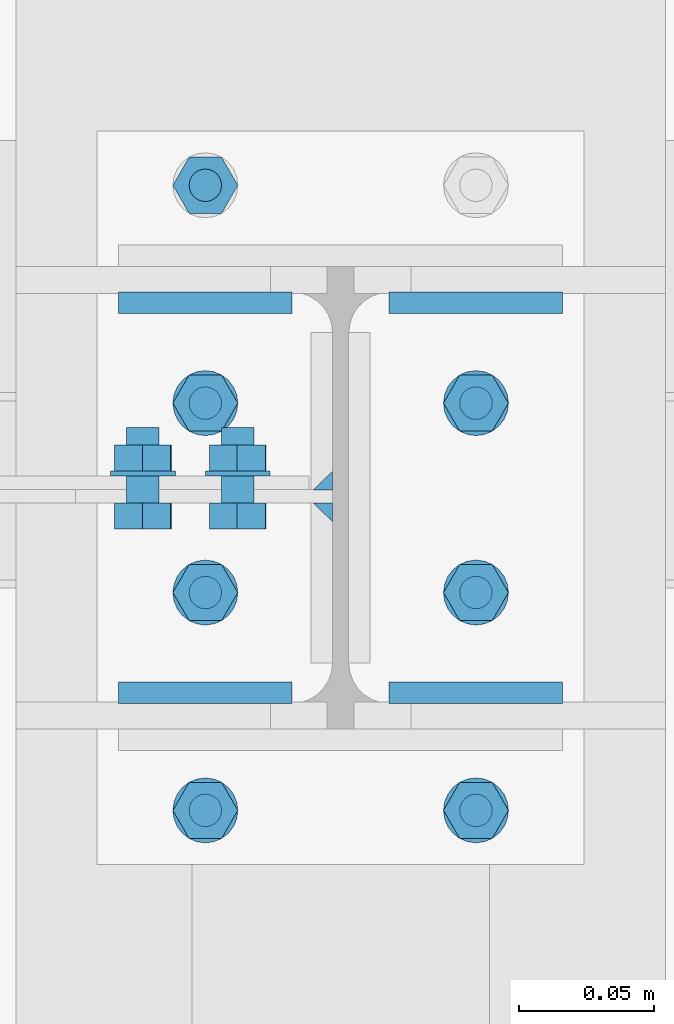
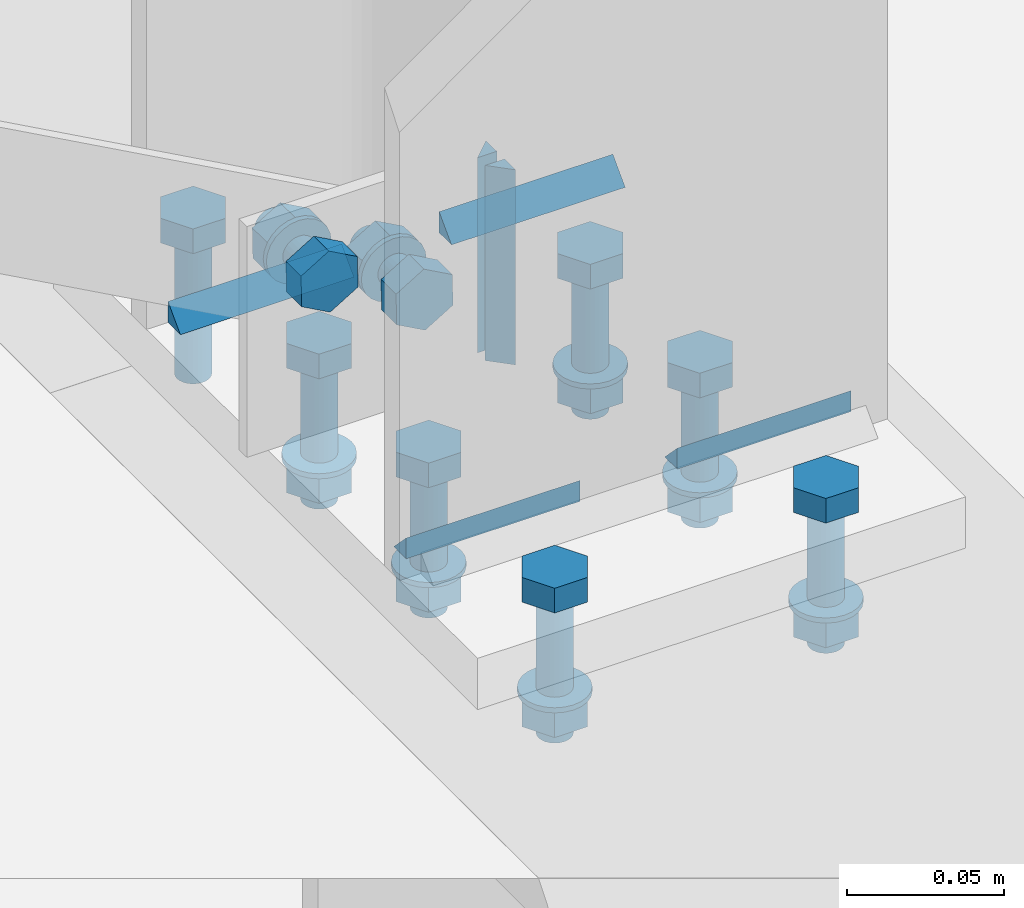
# One storey, part 43 of 66: 34 mechanical fasteners, 10 fasteners.
"""IFC4 building model written with IfcOpenShell, lengths in metres."""

from ifc_helpers import new_model, si_unit, frame, origin_with_axes, place, context, project, spatial, polyline, outline, extrude, type_object, element, save


model = new_model("IFC4")

# Units and contexts
model_context = context("Model", 3, precision=1e-05, world=origin_with_axes())
ifc_project = project(units=[si_unit("LENGTHUNIT", "METRE"), si_unit("AREAUNIT", "SQUARE_METRE"), si_unit("VOLUMEUNIT", "CUBIC_METRE"), si_unit("MASSUNIT", "GRAM", prefix="KILO"), si_unit("TIMEUNIT", "SECOND"), si_unit("PLANEANGLEUNIT", "RADIAN"), si_unit("SOLIDANGLEUNIT", "STERADIAN"), si_unit("THERMODYNAMICTEMPERATUREUNIT", "DEGREE_CELSIUS")], contexts=[model_context])

# Site, building, storey
placement_1 = place(None, origin_with_axes())
site = spatial("IfcSite", under=ifc_project, at=placement_1, Name="Italia", CompositionType="ELEMENT")
building = spatial("IfcBuilding", under=site, at=placement_1, Name="Uffici", CompositionType="ELEMENT")
storey_placement = place(None, frame((0.0, 0.0, 3.299999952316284), z_axis=(0.0, 0.0, 1.0), x_axis=(1.0, 0.0, 0.0)))
storey = spatial("IfcBuildingStorey", under=building, at=storey_placement, Name="Storey 1", CompositionType="ELEMENT", Elevation=3.299999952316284)

# Mechanical fasteners
mechanical_fastener_type_1 = type_object("IfcMechanicalFastenerType", Name="Collegamento 0107_0206", PredefinedType="BOLT")
placement_2 = place(placement_1, origin_with_axes())
mechanical_fastener_1_placement = place(placement_2, origin_with_axes())
element("IfcMechanicalFastener", 1, at=mechanical_fastener_1_placement, inside=storey, type_object=mechanical_fastener_type_1, Name="Collegamento 0107_0206", NominalDiameter=0.0119999, context=model_context, shape_type="SweptSolid", body=[
    extrude(outline(polyline([(0.0, 0.0), (0.0105102, -0.00579119), (0.0207806, 0.000415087), (0.0205407, 0.0124128), (0.0100305, 0.018204), (-0.000239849, 0.0119975), (0.0, 0.0)])), frame((3.1567, 4.8125, 3.36033), z_axis=(0.0, -1.0, 0.0), x_axis=(1.0, 0.0, 0.0)), (0.0, 0.0, 1.0), 0.00959969),
])
mechanical_fastener_type_2 = type_object("IfcMechanicalFastenerType", Name="Collegamento 0107_0206", PredefinedType="BOLT")
mechanical_fastener_2_placement = place(placement_2, origin_with_axes())
element("IfcMechanicalFastener", 2, at=mechanical_fastener_2_placement, inside=storey, type_object=mechanical_fastener_type_2, Name="Collegamento 0107_0206", NominalDiameter=0.012, context=model_context, shape_type="SweptSolid", body=[
    extrude(outline(polyline([(0.0, 0.0), (-0.000204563, -0.00155282), (-0.000803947, -0.00300002), (-0.00175738, -0.00424266), (-0.00300002, -0.00519609), (-0.00444722, -0.00579548), (-0.00600004, -0.00600004), (-0.00755286, -0.00579548), (-0.00900006, -0.00519609), (-0.0102427, -0.00424266), (-0.0111961, -0.00300002), (-0.0117955, -0.00155282), (-0.0120001, 0.0), (-0.0117955, 0.00155282), (-0.0111961, 0.00300002), (-0.0102427, 0.00424266), (-0.00900006, 0.00519609), (-0.00755286, 0.00579548), (-0.00600004, 0.00600004), (-0.00444722, 0.00579548), (-0.00300002, 0.00519609), (-0.00175738, 0.00424266), (-0.000803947, 0.00300002), (-0.000204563, 0.00155282), (0.0, 0.0)])), frame((3.17297, 4.8405, 3.36654), z_axis=(0.0, -1.0, 0.0), x_axis=(1.0, 0.0, 0.0)), (0.0, 0.0, 1.0), 0.0280004),
])
mechanical_fastener_type_3 = type_object("IfcMechanicalFastenerType", Name="Collegamento 0107_0206", PredefinedType="BOLT")
mechanical_fastener_3_placement = place(placement_2, origin_with_axes())
element("IfcMechanicalFastener", 3, at=mechanical_fastener_3_placement, inside=storey, type_object=mechanical_fastener_type_3, Name="Collegamento 0107_0206", NominalDiameter=0.0119999, context=model_context, shape_type="SweptSolid", body=[
    extrude(outline(polyline([(0.0, 0.0), (0.0105102, -0.00579119), (0.0207806, 0.000415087), (0.0205407, 0.0124128), (0.0100305, 0.018204), (-0.000239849, 0.0119975), (0.0, 0.0)])), frame((3.1567, 4.8341, 3.36033), z_axis=(0.0, -1.0, 0.0), x_axis=(1.0, 0.0, 0.0)), (0.0, 0.0, 1.0), 0.00960016),
])
mechanical_fastener_type_4 = type_object("IfcMechanicalFastenerType", Name="Collegamento 0107_0206", PredefinedType="BOLT")
mechanical_fastener_4_placement = place(placement_2, origin_with_axes())
element("IfcMechanicalFastener", 4, at=mechanical_fastener_4_placement, inside=storey, type_object=mechanical_fastener_type_4, Name="Collegamento 0107_0206", NominalDiameter=0.024, context=model_context, shape_type="SweptSolid", body=[
    extrude(outline(polyline([(0.0, 0.0), (-0.000408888, -0.00310588), (-0.00160789, -0.00600004), (-0.00351477, -0.00848532), (-0.00600004, -0.0103922), (-0.00889421, -0.0115912), (-0.0120001, -0.0120001), (-0.015106, -0.0115912), (-0.0180001, -0.0103922), (-0.0204854, -0.00848532), (-0.0223923, -0.00600004), (-0.0235913, -0.00310588), (-0.0240002, 0.0), (-0.0235913, 0.00310588), (-0.0223923, 0.00600004), (-0.0204854, 0.00848532), (-0.0180001, 0.0103922), (-0.015106, 0.0115912), (-0.0120001, 0.0120001), (-0.00889421, 0.0115912), (-0.00600004, 0.0103922), (-0.00351477, 0.00848532), (-0.00160789, 0.00600004), (-0.000408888, 0.00310588), (0.0, 0.0)])), frame((3.17897, 4.8245, 3.36654), z_axis=(0.0, -1.0, 0.0), x_axis=(1.0, 0.0, 0.0)), (0.0, 0.0, 1.0), 0.00199986),
])
mechanical_fastener_type_5 = type_object("IfcMechanicalFastenerType", Name="Collegamento 0107_0206", PredefinedType="BOLT")
mechanical_fastener_5_placement = place(placement_2, origin_with_axes())
element("IfcMechanicalFastener", 5, at=mechanical_fastener_5_placement, inside=storey, type_object=mechanical_fastener_type_5, Name="Collegamento 0107_0206", NominalDiameter=0.0119999, context=model_context, shape_type="SweptSolid", body=[
    extrude(outline(polyline([(0.0, 0.0), (0.01051, -0.00579119), (0.0207803, 0.000415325), (0.0205407, 0.0124128), (0.0100305, 0.018204), (-0.000239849, 0.0119975), (0.0, 0.0)])), frame((3.12166, 4.8125, 3.37964), z_axis=(0.0, -1.0, 0.0), x_axis=(1.0, 0.0, 0.0)), (0.0, 0.0, 1.0), 0.00959969),
])
mechanical_fastener_type_6 = type_object("IfcMechanicalFastenerType", Name="Collegamento 0107_0206", PredefinedType="BOLT")
mechanical_fastener_6_placement = place(placement_2, origin_with_axes())
element("IfcMechanicalFastener", 6, at=mechanical_fastener_6_placement, inside=storey, type_object=mechanical_fastener_type_6, Name="Collegamento 0107_0206", NominalDiameter=0.012, context=model_context, shape_type="SweptSolid", body=[
    extrude(outline(polyline([(0.0, 0.0), (-0.000204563, -0.00155282), (-0.000803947, -0.00300002), (-0.00175738, -0.00424266), (-0.00300002, -0.00519609), (-0.00444722, -0.00579548), (-0.00600004, -0.00600004), (-0.00755286, -0.00579548), (-0.00900006, -0.00519609), (-0.0102427, -0.00424266), (-0.0111961, -0.00300002), (-0.0117955, -0.00155282), (-0.0120001, 0.0), (-0.0117955, 0.00155282), (-0.0111961, 0.00300002), (-0.0102427, 0.00424266), (-0.00900006, 0.00519609), (-0.00755286, 0.00579548), (-0.00600004, 0.00600004), (-0.00444722, 0.00579548), (-0.00300002, 0.00519609), (-0.00175738, 0.00424266), (-0.000803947, 0.00300002), (-0.000204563, 0.00155282), (0.0, 0.0)])), frame((3.13793, 4.8405, 3.38584), z_axis=(0.0, -1.0, 0.0), x_axis=(1.0, 0.0, 0.0)), (0.0, 0.0, 1.0), 0.0280004),
])
mechanical_fastener_type_7 = type_object("IfcMechanicalFastenerType", Name="Collegamento 0107_0206", PredefinedType="BOLT")
mechanical_fastener_7_placement = place(placement_2, origin_with_axes())
element("IfcMechanicalFastener", 7, at=mechanical_fastener_7_placement, inside=storey, type_object=mechanical_fastener_type_7, Name="Collegamento 0107_0206", NominalDiameter=0.0119999, context=model_context, shape_type="SweptSolid", body=[
    extrude(outline(polyline([(0.0, 0.0), (0.01051, -0.00579119), (0.0207803, 0.000415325), (0.0205407, 0.0124128), (0.0100305, 0.018204), (-0.000239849, 0.0119975), (0.0, 0.0)])), frame((3.12166, 4.8341, 3.37964), z_axis=(0.0, -1.0, 0.0), x_axis=(1.0, 0.0, 0.0)), (0.0, 0.0, 1.0), 0.00960016),
])
mechanical_fastener_type_8 = type_object("IfcMechanicalFastenerType", Name="Collegamento 0107_0206", PredefinedType="BOLT")
mechanical_fastener_8_placement = place(placement_2, origin_with_axes())
element("IfcMechanicalFastener", 8, at=mechanical_fastener_8_placement, inside=storey, type_object=mechanical_fastener_type_8, Name="Collegamento 0107_0206", NominalDiameter=0.024, context=model_context, shape_type="SweptSolid", body=[
    extrude(outline(polyline([(0.0, 0.0), (-0.000408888, -0.00310588), (-0.00160789, -0.00600004), (-0.00351477, -0.00848532), (-0.00600004, -0.0103922), (-0.00889421, -0.0115912), (-0.0120001, -0.0120001), (-0.015106, -0.0115912), (-0.0180001, -0.0103922), (-0.0204854, -0.00848532), (-0.0223923, -0.00600004), (-0.0235913, -0.00310588), (-0.0240002, 0.0), (-0.0235913, 0.00310588), (-0.0223923, 0.00600004), (-0.0204854, 0.00848532), (-0.0180001, 0.0103922), (-0.015106, 0.0115912), (-0.0120001, 0.0120001), (-0.00889421, 0.0115912), (-0.00600004, 0.0103922), (-0.00351477, 0.00848532), (-0.00160789, 0.00600004), (-0.000408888, 0.00310588), (0.0, 0.0)])), frame((3.14393, 4.8245, 3.38584), z_axis=(0.0, -1.0, 0.0), x_axis=(1.0, 0.0, 0.0)), (0.0, 0.0, 1.0), 0.00199986),
])

# Fasteners
fastener_type_1 = type_object("IfcFastenerType", Name="Collegamento 0107_0206", PredefinedType="WELD")
fastener_1_placement = place(placement_2, origin_with_axes())
element("IfcFastener", 9, at=fastener_1_placement, inside=storey, type_object=fastener_type_1, Name="Collegamento 0107_0206", context=model_context, shape_type="SweptSolid", body=[
    extrude(outline(polyline([(0.0, 0.0), (-0.00695801, -0.0071733), (-0.00695801, 0.0), (0.0, 0.0)])), frame((3.20205, 4.82441, 3.40328), z_axis=(0.0, 0.0, -1.0), x_axis=(0.0, 1.0, 0.0)), (0.0, 0.0, 1.0), 0.0760994),
])
fastener_type_2 = type_object("IfcFastenerType", Name="Collegamento 0107_0206", PredefinedType="WELD")
fastener_2_placement = place(placement_2, origin_with_axes())
element("IfcFastener", 10, at=fastener_2_placement, inside=storey, type_object=fastener_type_2, Name="Collegamento 0107_0206", context=model_context, shape_type="SweptSolid", body=[
    extrude(outline(polyline([(0.0, 0.0), (0.00695801, 0.00717354), (0.00695801, 0.0), (0.0, 0.0)])), frame((3.20205, 4.80559, 3.32718), z_axis=(0.0, 0.0, 1.0), x_axis=(0.0, 1.0, 0.0)), (0.0, 0.0, 1.0), 0.0760999),
])
fastener_type_3 = type_object("IfcFastenerType", Name="Collegamento 0107_0207", PredefinedType="WELD")
fastener_3_placement = place(placement_2, origin_with_axes())
element("IfcFastener", 11, at=fastener_3_placement, inside=storey, type_object=fastener_type_3, Name="Collegamento 0107_0207", context=model_context, shape_type="SweptSolid", body=[
    extrude(outline(polyline([(0.0, 0.0), (0.00792837, 0.00817347), (0.00792837, 0.0), (0.0, 0.0)])), frame((3.22295, 4.88262, 3.31995), z_axis=(1.0, 0.0, 0.0), x_axis=(0.0, 1.0, 0.0)), (0.0, 0.0, 1.0), 0.0640998),
])
fastener_type_4 = type_object("IfcFastenerType", Name="Collegamento 0107_0207", PredefinedType="WELD")
fastener_4_placement = place(placement_2, origin_with_axes())
element("IfcFastener", 12, at=fastener_4_placement, inside=storey, type_object=fastener_type_4, Name="Collegamento 0107_0207", context=model_context, shape_type="SweptSolid", body=[
    extrude(outline(polyline([(0.0, 0.0), (0.00792837, 0.00817347), (0.00792837, 0.0), (0.0, 0.0)])), frame((3.28705, 4.74638, 3.31995), z_axis=(-1.0, 0.0, 0.0), x_axis=(0.0, -1.0, 0.0)), (0.0, 0.0, 1.0), 0.0640998),
])
fastener_type_5 = type_object("IfcFastenerType", Name="Collegamento 0107_0207", PredefinedType="WELD")
fastener_5_placement = place(placement_2, origin_with_axes())
element("IfcFastener", 13, at=fastener_5_placement, inside=storey, type_object=fastener_type_5, Name="Collegamento 0107_0207", context=model_context, shape_type="SweptSolid", body=[
    extrude(outline(polyline([(0.0, 0.0), (0.00792837, 0.00817347), (0.00792837, 0.0), (0.0, 0.0)])), frame((3.18705, 4.74638, 3.31995), z_axis=(-1.0, 0.0, 0.0), x_axis=(0.0, -1.0, 0.0)), (0.0, 0.0, 1.0), 0.0640998),
])
fastener_type_6 = type_object("IfcFastenerType", Name="Collegamento 0107_0207", PredefinedType="WELD")
fastener_6_placement = place(placement_2, origin_with_axes())
element("IfcFastener", 14, at=fastener_6_placement, inside=storey, type_object=fastener_type_6, Name="Collegamento 0107_0207", context=model_context, shape_type="SweptSolid", body=[
    extrude(outline(polyline([(0.0, 0.0), (0.00792837, 0.00817347), (0.00792837, 0.0), (0.0, 0.0)])), frame((3.12295, 4.88262, 3.31995), z_axis=(1.0, 0.0, 0.0), x_axis=(0.0, 1.0, 0.0)), (0.0, 0.0, 1.0), 0.0640998),
])
fastener_type_7 = type_object("IfcFastenerType", Name="Collegamento 0107_0207", PredefinedType="WELD")
fastener_7_placement = place(placement_2, origin_with_axes())
element("IfcFastener", 15, at=fastener_7_placement, inside=storey, type_object=fastener_type_7, Name="Collegamento 0107_0207", context=model_context, shape_type="SweptSolid", body=[
    extrude(outline(polyline([(0.0, 0.0), (0.00792837, 0.00817347), (0.00792837, 0.0), (0.0, 0.0)])), frame((3.22295, 4.88262, 3.31995), z_axis=(1.0, 0.0, 0.0), x_axis=(0.0, 1.0, 0.0)), (0.0, 0.0, 1.0), 0.0640998),
])
fastener_type_8 = type_object("IfcFastenerType", Name="Collegamento 0107_0207", PredefinedType="WELD")
fastener_8_placement = place(placement_2, origin_with_axes())
element("IfcFastener", 16, at=fastener_8_placement, inside=storey, type_object=fastener_type_8, Name="Collegamento 0107_0207", context=model_context, shape_type="SweptSolid", body=[
    extrude(outline(polyline([(0.0, 0.0), (0.00792837, 0.00817347), (0.00792837, 0.0), (0.0, 0.0)])), frame((3.28705, 4.74638, 3.31995), z_axis=(-1.0, 0.0, 0.0), x_axis=(0.0, -1.0, 0.0)), (0.0, 0.0, 1.0), 0.0640998),
])
fastener_type_9 = type_object("IfcFastenerType", Name="Collegamento 0107_0207", PredefinedType="WELD")
fastener_9_placement = place(placement_2, origin_with_axes())
element("IfcFastener", 17, at=fastener_9_placement, inside=storey, type_object=fastener_type_9, Name="Collegamento 0107_0207", context=model_context, shape_type="SweptSolid", body=[
    extrude(outline(polyline([(0.0, 0.0), (0.00792837, 0.00817347), (0.00792837, 0.0), (0.0, 0.0)])), frame((3.18705, 4.74638, 3.31995), z_axis=(-1.0, 0.0, 0.0), x_axis=(0.0, -1.0, 0.0)), (0.0, 0.0, 1.0), 0.0640998),
])
fastener_type_10 = type_object("IfcFastenerType", Name="Collegamento 0107_0207", PredefinedType="WELD")
fastener_10_placement = place(placement_2, origin_with_axes())
element("IfcFastener", 18, at=fastener_10_placement, inside=storey, type_object=fastener_type_10, Name="Collegamento 0107_0207", context=model_context, shape_type="SweptSolid", body=[
    extrude(outline(polyline([(0.0, 0.0), (0.00792837, 0.00817347), (0.00792837, 0.0), (0.0, 0.0)])), frame((3.12295, 4.88262, 3.31995), z_axis=(1.0, 0.0, 0.0), x_axis=(0.0, 1.0, 0.0)), (0.0, 0.0, 1.0), 0.0640998),
])

# Mechanical fasteners
mechanical_fastener_type_9 = type_object("IfcMechanicalFastenerType", Name="Collegamento 0107_0207", PredefinedType="BOLT")
mechanical_fastener_9_placement = place(placement_2, origin_with_axes())
element("IfcMechanicalFastener", 19, at=mechanical_fastener_9_placement, inside=storey, type_object=mechanical_fastener_type_9, Name="Collegamento 0107_0207", NominalDiameter=0.0119998, context=model_context, shape_type="SweptSolid", body=[
    extrude(outline(polyline([(0.0, 0.0), (0.0, 0.0120001), (0.0103922, 0.0180001), (0.0207844, 0.0120001), (0.0207844, 0.0), (0.0103922, -0.0059998), (0.0, 0.0)])), frame((3.161, 4.91961, 3.32), z_axis=(0.0, 0.0, 1.0), x_axis=(0.0, 1.0, 0.0)), (0.0, 0.0, 1.0), 0.00959992),
])
mechanical_fastener_type_10 = type_object("IfcMechanicalFastenerType", Name="Collegamento 0107_0207", PredefinedType="BOLT")
mechanical_fastener_10_placement = place(placement_2, origin_with_axes())
element("IfcMechanicalFastener", 20, at=mechanical_fastener_10_placement, inside=storey, type_object=mechanical_fastener_type_10, Name="Collegamento 0107_0207", NominalDiameter=0.012, context=model_context, shape_type="SweptSolid", body=[
    extrude(outline(polyline([(0.0, 0.0), (-0.000204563, -0.00155282), (-0.000803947, -0.00300002), (-0.00175762, -0.00424266), (-0.00300026, -0.00519609), (-0.00444698, -0.00579548), (-0.00600004, -0.00600004), (-0.0075531, -0.00579548), (-0.00899982, -0.00519609), (-0.0102425, -0.00424266), (-0.0111961, -0.00300002), (-0.0117955, -0.00155282), (-0.0120001, 0.0), (-0.0117955, 0.00155282), (-0.0111961, 0.00300002), (-0.0102425, 0.00424266), (-0.00899982, 0.00519609), (-0.0075531, 0.00579548), (-0.00600004, 0.00600004), (-0.00444698, 0.00579548), (-0.00300026, 0.00519609), (-0.00175762, 0.00424266), (-0.000803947, 0.00300002), (-0.000204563, 0.00155282), (0.0, 0.0)])), frame((3.155, 4.936, 3.265), z_axis=(0.0, 0.0, 1.0), x_axis=(0.0, 1.0, 0.0)), (0.0, 0.0, 1.0), 0.0550001),
])
mechanical_fastener_type_11 = type_object("IfcMechanicalFastenerType", Name="Collegamento 0107_0207", PredefinedType="BOLT")
mechanical_fastener_11_placement = place(placement_2, origin_with_axes())
element("IfcMechanicalFastener", 21, at=mechanical_fastener_11_placement, inside=storey, type_object=mechanical_fastener_type_11, Name="Collegamento 0107_0207", NominalDiameter=0.0119998, context=model_context, shape_type="SweptSolid", body=[
    extrude(outline(polyline([(0.0, 0.0), (0.0, 0.0120001), (0.0103927, 0.0180001), (0.0207849, 0.0120001), (0.0207849, 0.0), (0.0103927, -0.0059998), (0.0, 0.0)])), frame((3.161, 4.76911, 3.32), z_axis=(0.0, 0.0, 1.0), x_axis=(0.0, 1.0, 0.0)), (0.0, 0.0, 1.0), 0.00959992),
])
mechanical_fastener_type_12 = type_object("IfcMechanicalFastenerType", Name="Collegamento 0107_0207", PredefinedType="BOLT")
mechanical_fastener_12_placement = place(placement_2, origin_with_axes())
element("IfcMechanicalFastener", 22, at=mechanical_fastener_12_placement, inside=storey, type_object=mechanical_fastener_type_12, Name="Collegamento 0107_0207", NominalDiameter=0.012, context=model_context, shape_type="SweptSolid", body=[
    extrude(outline(polyline([(0.0, 0.0), (-0.000204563, -0.00155282), (-0.000803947, -0.00300002), (-0.00175762, -0.00424266), (-0.00300026, -0.00519609), (-0.00444698, -0.00579548), (-0.00600004, -0.00600004), (-0.0075531, -0.00579548), (-0.00899982, -0.00519609), (-0.0102425, -0.00424266), (-0.0111961, -0.00300002), (-0.0117955, -0.00155282), (-0.0120001, 0.0), (-0.0117955, 0.00155282), (-0.0111961, 0.00300002), (-0.0102425, 0.00424266), (-0.00899982, 0.00519609), (-0.0075531, 0.00579548), (-0.00600004, 0.00600004), (-0.00444698, 0.00579548), (-0.00300026, 0.00519609), (-0.00175762, 0.00424266), (-0.000803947, 0.00300002), (-0.000204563, 0.00155282), (0.0, 0.0)])), frame((3.155, 4.7855, 3.265), z_axis=(0.0, 0.0, 1.0), x_axis=(0.0, 1.0, 0.0)), (0.0, 0.0, 1.0), 0.0550001),
])
mechanical_fastener_type_13 = type_object("IfcMechanicalFastenerType", Name="Collegamento 0107_0207", PredefinedType="BOLT")
mechanical_fastener_13_placement = place(placement_2, origin_with_axes())
element("IfcMechanicalFastener", 23, at=mechanical_fastener_13_placement, inside=storey, type_object=mechanical_fastener_type_13, Name="Collegamento 0107_0207", NominalDiameter=0.0119998, context=model_context, shape_type="SweptSolid", body=[
    extrude(outline(polyline([(0.0, 0.0), (0.0, 0.0120001), (0.0103927, 0.0180001), (0.0207849, 0.0120001), (0.0207849, 0.0), (0.0103927, -0.0059998), (0.0, 0.0)])), frame((3.161, 4.76911, 3.2714), z_axis=(0.0, 0.0, 1.0), x_axis=(0.0, 1.0, 0.0)), (0.0, 0.0, 1.0), 0.00959992),
])
mechanical_fastener_type_14 = type_object("IfcMechanicalFastenerType", Name="Collegamento 0107_0207", PredefinedType="BOLT")
mechanical_fastener_14_placement = place(placement_2, origin_with_axes())
element("IfcMechanicalFastener", 24, at=mechanical_fastener_14_placement, inside=storey, type_object=mechanical_fastener_type_14, Name="Collegamento 0107_0207", NominalDiameter=0.024, context=model_context, shape_type="SweptSolid", body=[
    extrude(outline(polyline([(0.0, 0.0), (-0.000409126, -0.00310588), (-0.00160789, -0.00600004), (-0.00351477, -0.00848532), (-0.00600004, -0.0103922), (-0.00889444, -0.0115912), (-0.0120001, -0.0120001), (-0.0151057, -0.0115912), (-0.0180001, -0.0103922), (-0.0204854, -0.00848532), (-0.0223923, -0.00600004), (-0.023591, -0.00310588), (-0.0240002, 0.0), (-0.023591, 0.00310588), (-0.0223923, 0.00600004), (-0.0204854, 0.00848532), (-0.0180001, 0.0103922), (-0.0151057, 0.0115912), (-0.0120001, 0.0120001), (-0.00889444, 0.0115912), (-0.00600004, 0.0103922), (-0.00351477, 0.00848532), (-0.00160789, 0.00600004), (-0.000409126, 0.00310588), (0.0, 0.0)])), frame((3.155, 4.7915, 3.281), z_axis=(0.0, 0.0, 1.0), x_axis=(0.0, 1.0, 0.0)), (0.0, 0.0, 1.0), 0.00200009),
])
mechanical_fastener_type_15 = type_object("IfcMechanicalFastenerType", Name="Collegamento 0107_0207", PredefinedType="BOLT")
mechanical_fastener_15_placement = place(placement_2, origin_with_axes())
element("IfcMechanicalFastener", 25, at=mechanical_fastener_15_placement, inside=storey, type_object=mechanical_fastener_type_15, Name="Collegamento 0107_0207", NominalDiameter=0.0119998, context=model_context, shape_type="SweptSolid", body=[
    extrude(outline(polyline([(0.0, 0.0), (0.0, 0.0120001), (0.0103927, 0.0179999), (0.0207849, 0.0120001), (0.0207849, 0.0), (0.0103927, -0.00600004), (0.0, 0.0)])), frame((3.261, 4.76911, 3.32), z_axis=(0.0, 0.0, 1.0), x_axis=(0.0, 1.0, 0.0)), (0.0, 0.0, 1.0), 0.00959992),
])
mechanical_fastener_type_16 = type_object("IfcMechanicalFastenerType", Name="Collegamento 0107_0207", PredefinedType="BOLT")
mechanical_fastener_16_placement = place(placement_2, origin_with_axes())
element("IfcMechanicalFastener", 26, at=mechanical_fastener_16_placement, inside=storey, type_object=mechanical_fastener_type_16, Name="Collegamento 0107_0207", NominalDiameter=0.012, context=model_context, shape_type="SweptSolid", body=[
    extrude(outline(polyline([(0.0, 0.0), (-0.000204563, -0.00155282), (-0.000803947, -0.00300002), (-0.00175762, -0.00424266), (-0.00300026, -0.00519609), (-0.00444698, -0.00579548), (-0.00600004, -0.00600004), (-0.0075531, -0.00579548), (-0.00899982, -0.00519609), (-0.0102425, -0.00424266), (-0.0111961, -0.00300002), (-0.0117955, -0.00155282), (-0.0120001, 0.0), (-0.0117955, 0.00155282), (-0.0111961, 0.00300002), (-0.0102425, 0.00424266), (-0.00899982, 0.00519609), (-0.0075531, 0.00579548), (-0.00600004, 0.00600004), (-0.00444698, 0.00579548), (-0.00300026, 0.00519609), (-0.00175762, 0.00424266), (-0.000803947, 0.00300002), (-0.000204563, 0.00155282), (0.0, 0.0)])), frame((3.255, 4.7855, 3.265), z_axis=(0.0, 0.0, 1.0), x_axis=(0.0, 1.0, 0.0)), (0.0, 0.0, 1.0), 0.0550001),
])
mechanical_fastener_type_17 = type_object("IfcMechanicalFastenerType", Name="Collegamento 0107_0207", PredefinedType="BOLT")
mechanical_fastener_17_placement = place(placement_2, origin_with_axes())
element("IfcMechanicalFastener", 27, at=mechanical_fastener_17_placement, inside=storey, type_object=mechanical_fastener_type_17, Name="Collegamento 0107_0207", NominalDiameter=0.0119998, context=model_context, shape_type="SweptSolid", body=[
    extrude(outline(polyline([(0.0, 0.0), (0.0, 0.0120001), (0.0103927, 0.0179999), (0.0207849, 0.0120001), (0.0207849, 0.0), (0.0103927, -0.00600004), (0.0, 0.0)])), frame((3.261, 4.76911, 3.2714), z_axis=(0.0, 0.0, 1.0), x_axis=(0.0, 1.0, 0.0)), (0.0, 0.0, 1.0), 0.00959992),
])
mechanical_fastener_type_18 = type_object("IfcMechanicalFastenerType", Name="Collegamento 0107_0207", PredefinedType="BOLT")
mechanical_fastener_18_placement = place(placement_2, origin_with_axes())
element("IfcMechanicalFastener", 28, at=mechanical_fastener_18_placement, inside=storey, type_object=mechanical_fastener_type_18, Name="Collegamento 0107_0207", NominalDiameter=0.024, context=model_context, shape_type="SweptSolid", body=[
    extrude(outline(polyline([(0.0, 0.0), (-0.000409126, -0.00310588), (-0.00160789, -0.00600004), (-0.00351477, -0.00848532), (-0.00600004, -0.0103922), (-0.00889444, -0.0115912), (-0.0120001, -0.0120001), (-0.0151057, -0.0115912), (-0.0180001, -0.0103922), (-0.0204854, -0.00848532), (-0.0223923, -0.00600004), (-0.023591, -0.00310588), (-0.0240002, 0.0), (-0.023591, 0.00310588), (-0.0223923, 0.00600004), (-0.0204854, 0.00848532), (-0.0180001, 0.0103922), (-0.0151057, 0.0115912), (-0.0120001, 0.0120001), (-0.00889444, 0.0115912), (-0.00600004, 0.0103922), (-0.00351477, 0.00848532), (-0.00160789, 0.00600004), (-0.000409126, 0.00310588), (0.0, 0.0)])), frame((3.255, 4.7915, 3.281), z_axis=(0.0, 0.0, 1.0), x_axis=(0.0, 1.0, 0.0)), (0.0, 0.0, 1.0), 0.00200009),
])
mechanical_fastener_type_19 = type_object("IfcMechanicalFastenerType", Name="Collegamento 0107_0207", PredefinedType="BOLT")
mechanical_fastener_19_placement = place(placement_2, origin_with_axes())
element("IfcMechanicalFastener", 29, at=mechanical_fastener_19_placement, inside=storey, type_object=mechanical_fastener_type_19, Name="Collegamento 0107_0207", NominalDiameter=0.0119998, context=model_context, shape_type="SweptSolid", body=[
    extrude(outline(polyline([(0.0, 0.0), (0.0, 0.0120001), (0.0103922, 0.0180001), (0.0207849, 0.0120001), (0.0207849, 0.0), (0.0103922, -0.0059998), (0.0, 0.0)])), frame((3.161, 4.83911, 3.32), z_axis=(0.0, 0.0, 1.0), x_axis=(0.0, 1.0, 0.0)), (0.0, 0.0, 1.0), 0.00959992),
])
mechanical_fastener_type_20 = type_object("IfcMechanicalFastenerType", Name="Collegamento 0107_0207", PredefinedType="BOLT")
mechanical_fastener_20_placement = place(placement_2, origin_with_axes())
element("IfcMechanicalFastener", 30, at=mechanical_fastener_20_placement, inside=storey, type_object=mechanical_fastener_type_20, Name="Collegamento 0107_0207", NominalDiameter=0.012, context=model_context, shape_type="SweptSolid", body=[
    extrude(outline(polyline([(0.0, 0.0), (-0.000204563, -0.00155282), (-0.000803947, -0.00300002), (-0.00175762, -0.00424266), (-0.00300026, -0.00519609), (-0.00444698, -0.00579548), (-0.00600004, -0.00600004), (-0.0075531, -0.00579548), (-0.00899982, -0.00519609), (-0.0102425, -0.00424266), (-0.0111961, -0.00300002), (-0.0117955, -0.00155282), (-0.0120001, 0.0), (-0.0117955, 0.00155282), (-0.0111961, 0.00300002), (-0.0102425, 0.00424266), (-0.00899982, 0.00519609), (-0.0075531, 0.00579548), (-0.00600004, 0.00600004), (-0.00444698, 0.00579548), (-0.00300026, 0.00519609), (-0.00175762, 0.00424266), (-0.000803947, 0.00300002), (-0.000204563, 0.00155282), (0.0, 0.0)])), frame((3.155, 4.8555, 3.265), z_axis=(0.0, 0.0, 1.0), x_axis=(0.0, 1.0, 0.0)), (0.0, 0.0, 1.0), 0.0550001),
])
mechanical_fastener_type_21 = type_object("IfcMechanicalFastenerType", Name="Collegamento 0107_0207", PredefinedType="BOLT")
mechanical_fastener_21_placement = place(placement_2, origin_with_axes())
element("IfcMechanicalFastener", 31, at=mechanical_fastener_21_placement, inside=storey, type_object=mechanical_fastener_type_21, Name="Collegamento 0107_0207", NominalDiameter=0.0119998, context=model_context, shape_type="SweptSolid", body=[
    extrude(outline(polyline([(0.0, 0.0), (0.0, 0.0120001), (0.0103922, 0.0180001), (0.0207849, 0.0120001), (0.0207849, 0.0), (0.0103922, -0.0059998), (0.0, 0.0)])), frame((3.161, 4.83911, 3.2714), z_axis=(0.0, 0.0, 1.0), x_axis=(0.0, 1.0, 0.0)), (0.0, 0.0, 1.0), 0.00959992),
])
mechanical_fastener_type_22 = type_object("IfcMechanicalFastenerType", Name="Collegamento 0107_0207", PredefinedType="BOLT")
mechanical_fastener_22_placement = place(placement_2, origin_with_axes())
element("IfcMechanicalFastener", 32, at=mechanical_fastener_22_placement, inside=storey, type_object=mechanical_fastener_type_22, Name="Collegamento 0107_0207", NominalDiameter=0.024, context=model_context, shape_type="SweptSolid", body=[
    extrude(outline(polyline([(0.0, 0.0), (-0.000409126, -0.00310588), (-0.00160789, -0.00600004), (-0.00351477, -0.00848532), (-0.00600004, -0.0103922), (-0.00889444, -0.0115912), (-0.0120001, -0.0120001), (-0.0151057, -0.0115912), (-0.0180001, -0.0103922), (-0.0204854, -0.00848532), (-0.0223923, -0.00600004), (-0.023591, -0.00310588), (-0.0240002, 0.0), (-0.023591, 0.00310588), (-0.0223923, 0.00600004), (-0.0204854, 0.00848532), (-0.0180001, 0.0103922), (-0.0151057, 0.0115912), (-0.0120001, 0.0120001), (-0.00889444, 0.0115912), (-0.00600004, 0.0103922), (-0.00351477, 0.00848532), (-0.00160789, 0.00600004), (-0.000409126, 0.00310588), (0.0, 0.0)])), frame((3.155, 4.8615, 3.281), z_axis=(0.0, 0.0, 1.0), x_axis=(0.0, 1.0, 0.0)), (0.0, 0.0, 1.0), 0.00200009),
])
mechanical_fastener_type_23 = type_object("IfcMechanicalFastenerType", Name="Collegamento 0107_0207", PredefinedType="BOLT")
mechanical_fastener_23_placement = place(placement_2, origin_with_axes())
element("IfcMechanicalFastener", 33, at=mechanical_fastener_23_placement, inside=storey, type_object=mechanical_fastener_type_23, Name="Collegamento 0107_0207", NominalDiameter=0.0119998, context=model_context, shape_type="SweptSolid", body=[
    extrude(outline(polyline([(0.0, 0.0), (0.0, 0.0120001), (0.0103922, 0.0179999), (0.0207849, 0.0120001), (0.0207849, 0.0), (0.0103922, -0.00600004), (0.0, 0.0)])), frame((3.261, 4.83911, 3.32), z_axis=(0.0, 0.0, 1.0), x_axis=(0.0, 1.0, 0.0)), (0.0, 0.0, 1.0), 0.00959992),
])
mechanical_fastener_type_24 = type_object("IfcMechanicalFastenerType", Name="Collegamento 0107_0207", PredefinedType="BOLT")
mechanical_fastener_24_placement = place(placement_2, origin_with_axes())
element("IfcMechanicalFastener", 34, at=mechanical_fastener_24_placement, inside=storey, type_object=mechanical_fastener_type_24, Name="Collegamento 0107_0207", NominalDiameter=0.012, context=model_context, shape_type="SweptSolid", body=[
    extrude(outline(polyline([(0.0, 0.0), (-0.000204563, -0.00155282), (-0.000803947, -0.00300002), (-0.00175762, -0.00424266), (-0.00300026, -0.00519609), (-0.00444698, -0.00579548), (-0.00600004, -0.00600004), (-0.0075531, -0.00579548), (-0.00899982, -0.00519609), (-0.0102425, -0.00424266), (-0.0111961, -0.00300002), (-0.0117955, -0.00155282), (-0.0120001, 0.0), (-0.0117955, 0.00155282), (-0.0111961, 0.00300002), (-0.0102425, 0.00424266), (-0.00899982, 0.00519609), (-0.0075531, 0.00579548), (-0.00600004, 0.00600004), (-0.00444698, 0.00579548), (-0.00300026, 0.00519609), (-0.00175762, 0.00424266), (-0.000803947, 0.00300002), (-0.000204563, 0.00155282), (0.0, 0.0)])), frame((3.255, 4.8555, 3.265), z_axis=(0.0, 0.0, 1.0), x_axis=(0.0, 1.0, 0.0)), (0.0, 0.0, 1.0), 0.0550001),
])
mechanical_fastener_type_25 = type_object("IfcMechanicalFastenerType", Name="Collegamento 0107_0207", PredefinedType="BOLT")
mechanical_fastener_25_placement = place(placement_2, origin_with_axes())
element("IfcMechanicalFastener", 35, at=mechanical_fastener_25_placement, inside=storey, type_object=mechanical_fastener_type_25, Name="Collegamento 0107_0207", NominalDiameter=0.0119998, context=model_context, shape_type="SweptSolid", body=[
    extrude(outline(polyline([(0.0, 0.0), (0.0, 0.0120001), (0.0103922, 0.0179999), (0.0207849, 0.0120001), (0.0207849, 0.0), (0.0103922, -0.00600004), (0.0, 0.0)])), frame((3.261, 4.83911, 3.2714), z_axis=(0.0, 0.0, 1.0), x_axis=(0.0, 1.0, 0.0)), (0.0, 0.0, 1.0), 0.00959992),
])
mechanical_fastener_type_26 = type_object("IfcMechanicalFastenerType", Name="Collegamento 0107_0207", PredefinedType="BOLT")
mechanical_fastener_26_placement = place(placement_2, origin_with_axes())
element("IfcMechanicalFastener", 36, at=mechanical_fastener_26_placement, inside=storey, type_object=mechanical_fastener_type_26, Name="Collegamento 0107_0207", NominalDiameter=0.024, context=model_context, shape_type="SweptSolid", body=[
    extrude(outline(polyline([(0.0, 0.0), (-0.000409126, -0.00310588), (-0.00160789, -0.00600004), (-0.00351477, -0.00848532), (-0.00600004, -0.0103922), (-0.00889444, -0.0115912), (-0.0120001, -0.0120001), (-0.0151057, -0.0115912), (-0.0180001, -0.0103922), (-0.0204854, -0.00848532), (-0.0223923, -0.00600004), (-0.023591, -0.00310588), (-0.0240002, 0.0), (-0.023591, 0.00310588), (-0.0223923, 0.00600004), (-0.0204854, 0.00848532), (-0.0180001, 0.0103922), (-0.0151057, 0.0115912), (-0.0120001, 0.0120001), (-0.00889444, 0.0115912), (-0.00600004, 0.0103922), (-0.00351477, 0.00848532), (-0.00160789, 0.00600004), (-0.000409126, 0.00310588), (0.0, 0.0)])), frame((3.255, 4.8615, 3.281), z_axis=(0.0, 0.0, 1.0), x_axis=(0.0, 1.0, 0.0)), (0.0, 0.0, 1.0), 0.00200009),
])
mechanical_fastener_type_27 = type_object("IfcMechanicalFastenerType", Name="Collegamento 0107_0207", PredefinedType="BOLT")
mechanical_fastener_27_placement = place(placement_2, origin_with_axes())
element("IfcMechanicalFastener", 37, at=mechanical_fastener_27_placement, inside=storey, type_object=mechanical_fastener_type_27, Name="Collegamento 0107_0207", NominalDiameter=0.0119998, context=model_context, shape_type="SweptSolid", body=[
    extrude(outline(polyline([(0.0, 0.0), (0.0, 0.0120001), (0.0103922, 0.0180001), (0.0207844, 0.0120001), (0.0207844, 0.0), (0.0103922, -0.0059998), (0.0, 0.0)])), frame((3.161, 4.68861, 3.32), z_axis=(0.0, 0.0, 1.0), x_axis=(0.0, 1.0, 0.0)), (0.0, 0.0, 1.0), 0.00959992),
])
mechanical_fastener_type_28 = type_object("IfcMechanicalFastenerType", Name="Collegamento 0107_0207", PredefinedType="BOLT")
mechanical_fastener_28_placement = place(placement_2, origin_with_axes())
element("IfcMechanicalFastener", 38, at=mechanical_fastener_28_placement, inside=storey, type_object=mechanical_fastener_type_28, Name="Collegamento 0107_0207", NominalDiameter=0.012, context=model_context, shape_type="SweptSolid", body=[
    extrude(outline(polyline([(0.0, 0.0), (-0.000204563, -0.00155282), (-0.000803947, -0.00300002), (-0.00175762, -0.00424266), (-0.00300026, -0.00519609), (-0.00444698, -0.00579548), (-0.00600004, -0.00600004), (-0.0075531, -0.00579548), (-0.00899982, -0.00519609), (-0.0102425, -0.00424266), (-0.0111961, -0.00300002), (-0.0117955, -0.00155282), (-0.0120001, 0.0), (-0.0117955, 0.00155282), (-0.0111961, 0.00300002), (-0.0102425, 0.00424266), (-0.00899982, 0.00519609), (-0.0075531, 0.00579548), (-0.00600004, 0.00600004), (-0.00444698, 0.00579548), (-0.00300026, 0.00519609), (-0.00175762, 0.00424266), (-0.000803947, 0.00300002), (-0.000204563, 0.00155282), (0.0, 0.0)])), frame((3.155, 4.705, 3.265), z_axis=(0.0, 0.0, 1.0), x_axis=(0.0, 1.0, 0.0)), (0.0, 0.0, 1.0), 0.0550001),
])
mechanical_fastener_type_29 = type_object("IfcMechanicalFastenerType", Name="Collegamento 0107_0207", PredefinedType="BOLT")
mechanical_fastener_29_placement = place(placement_2, origin_with_axes())
element("IfcMechanicalFastener", 39, at=mechanical_fastener_29_placement, inside=storey, type_object=mechanical_fastener_type_29, Name="Collegamento 0107_0207", NominalDiameter=0.0119998, context=model_context, shape_type="SweptSolid", body=[
    extrude(outline(polyline([(0.0, 0.0), (0.0, 0.0120001), (0.0103922, 0.0180001), (0.0207844, 0.0120001), (0.0207844, 0.0), (0.0103922, -0.0059998), (0.0, 0.0)])), frame((3.161, 4.68861, 3.2714), z_axis=(0.0, 0.0, 1.0), x_axis=(0.0, 1.0, 0.0)), (0.0, 0.0, 1.0), 0.00959992),
])
mechanical_fastener_type_30 = type_object("IfcMechanicalFastenerType", Name="Collegamento 0107_0207", PredefinedType="BOLT")
mechanical_fastener_30_placement = place(placement_2, origin_with_axes())
element("IfcMechanicalFastener", 40, at=mechanical_fastener_30_placement, inside=storey, type_object=mechanical_fastener_type_30, Name="Collegamento 0107_0207", NominalDiameter=0.024, context=model_context, shape_type="SweptSolid", body=[
    extrude(outline(polyline([(0.0, 0.0), (-0.000409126, -0.00310588), (-0.00160789, -0.00600004), (-0.00351477, -0.00848532), (-0.00600004, -0.0103922), (-0.00889444, -0.0115912), (-0.0120001, -0.0120001), (-0.0151057, -0.0115912), (-0.0180001, -0.0103922), (-0.0204854, -0.00848532), (-0.0223923, -0.00600004), (-0.023591, -0.00310588), (-0.0240002, 0.0), (-0.023591, 0.00310588), (-0.0223923, 0.00600004), (-0.0204854, 0.00848532), (-0.0180001, 0.0103922), (-0.0151057, 0.0115912), (-0.0120001, 0.0120001), (-0.00889444, 0.0115912), (-0.00600004, 0.0103922), (-0.00351477, 0.00848532), (-0.00160789, 0.00600004), (-0.000409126, 0.00310588), (0.0, 0.0)])), frame((3.155, 4.711, 3.281), z_axis=(0.0, 0.0, 1.0), x_axis=(0.0, 1.0, 0.0)), (0.0, 0.0, 1.0), 0.00200009),
])
mechanical_fastener_type_31 = type_object("IfcMechanicalFastenerType", Name="Collegamento 0107_0207", PredefinedType="BOLT")
mechanical_fastener_31_placement = place(placement_2, origin_with_axes())
element("IfcMechanicalFastener", 41, at=mechanical_fastener_31_placement, inside=storey, type_object=mechanical_fastener_type_31, Name="Collegamento 0107_0207", NominalDiameter=0.0119998, context=model_context, shape_type="SweptSolid", body=[
    extrude(outline(polyline([(0.0, 0.0), (0.0, 0.0120001), (0.0103922, 0.0179999), (0.0207844, 0.0120001), (0.0207844, 0.0), (0.0103922, -0.00600004), (0.0, 0.0)])), frame((3.261, 4.68861, 3.32), z_axis=(0.0, 0.0, 1.0), x_axis=(0.0, 1.0, 0.0)), (0.0, 0.0, 1.0), 0.00959992),
])
mechanical_fastener_type_32 = type_object("IfcMechanicalFastenerType", Name="Collegamento 0107_0207", PredefinedType="BOLT")
mechanical_fastener_32_placement = place(placement_2, origin_with_axes())
element("IfcMechanicalFastener", 42, at=mechanical_fastener_32_placement, inside=storey, type_object=mechanical_fastener_type_32, Name="Collegamento 0107_0207", NominalDiameter=0.012, context=model_context, shape_type="SweptSolid", body=[
    extrude(outline(polyline([(0.0, 0.0), (-0.000204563, -0.00155282), (-0.000803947, -0.00300002), (-0.00175762, -0.00424266), (-0.00300026, -0.00519609), (-0.00444698, -0.00579548), (-0.00600004, -0.00600004), (-0.0075531, -0.00579548), (-0.00899982, -0.00519609), (-0.0102425, -0.00424266), (-0.0111961, -0.00300002), (-0.0117955, -0.00155282), (-0.0120001, 0.0), (-0.0117955, 0.00155282), (-0.0111961, 0.00300002), (-0.0102425, 0.00424266), (-0.00899982, 0.00519609), (-0.0075531, 0.00579548), (-0.00600004, 0.00600004), (-0.00444698, 0.00579548), (-0.00300026, 0.00519609), (-0.00175762, 0.00424266), (-0.000803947, 0.00300002), (-0.000204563, 0.00155282), (0.0, 0.0)])), frame((3.255, 4.705, 3.265), z_axis=(0.0, 0.0, 1.0), x_axis=(0.0, 1.0, 0.0)), (0.0, 0.0, 1.0), 0.0550001),
])
mechanical_fastener_type_33 = type_object("IfcMechanicalFastenerType", Name="Collegamento 0107_0207", PredefinedType="BOLT")
mechanical_fastener_33_placement = place(placement_2, origin_with_axes())
element("IfcMechanicalFastener", 43, at=mechanical_fastener_33_placement, inside=storey, type_object=mechanical_fastener_type_33, Name="Collegamento 0107_0207", NominalDiameter=0.0119998, context=model_context, shape_type="SweptSolid", body=[
    extrude(outline(polyline([(0.0, 0.0), (0.0, 0.0120001), (0.0103922, 0.0179999), (0.0207844, 0.0120001), (0.0207844, 0.0), (0.0103922, -0.00600004), (0.0, 0.0)])), frame((3.261, 4.68861, 3.2714), z_axis=(0.0, 0.0, 1.0), x_axis=(0.0, 1.0, 0.0)), (0.0, 0.0, 1.0), 0.00959992),
])
mechanical_fastener_type_34 = type_object("IfcMechanicalFastenerType", Name="Collegamento 0107_0207", PredefinedType="BOLT")
mechanical_fastener_34_placement = place(placement_2, origin_with_axes())
element("IfcMechanicalFastener", 44, at=mechanical_fastener_34_placement, inside=storey, type_object=mechanical_fastener_type_34, Name="Collegamento 0107_0207", NominalDiameter=0.024, context=model_context, shape_type="SweptSolid", body=[
    extrude(outline(polyline([(0.0, 0.0), (-0.000409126, -0.00310588), (-0.00160789, -0.00600004), (-0.00351477, -0.00848532), (-0.00600004, -0.0103922), (-0.00889444, -0.0115912), (-0.0120001, -0.0120001), (-0.0151057, -0.0115912), (-0.0180001, -0.0103922), (-0.0204854, -0.00848532), (-0.0223923, -0.00600004), (-0.023591, -0.00310588), (-0.0240002, 0.0), (-0.023591, 0.00310588), (-0.0223923, 0.00600004), (-0.0204854, 0.00848532), (-0.0180001, 0.0103922), (-0.0151057, 0.0115912), (-0.0120001, 0.0120001), (-0.00889444, 0.0115912), (-0.00600004, 0.0103922), (-0.00351477, 0.00848532), (-0.00160789, 0.00600004), (-0.000409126, 0.00310588), (0.0, 0.0)])), frame((3.255, 4.711, 3.281), z_axis=(0.0, 0.0, 1.0), x_axis=(0.0, 1.0, 0.0)), (0.0, 0.0, 1.0), 0.00200009),
])

save(model, "model.ifc")
